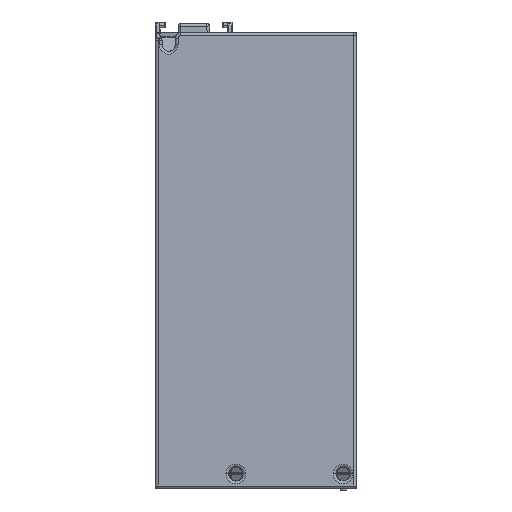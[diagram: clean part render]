
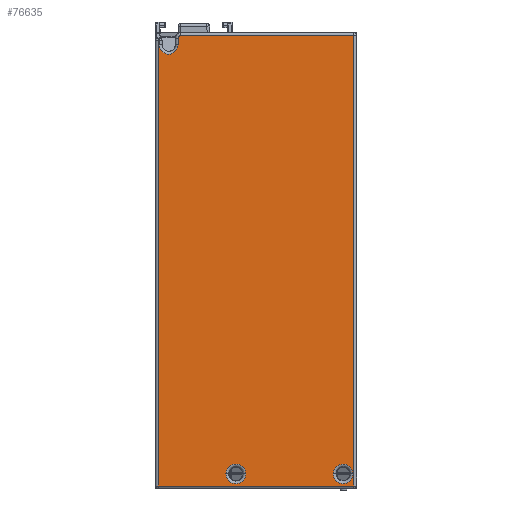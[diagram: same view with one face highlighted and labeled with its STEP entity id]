
A CAD part, front view. The second image highlights one B-rep face of the part: STEP entity #76635.
In plain terms, the highlighted planar face has unit normal (0, -1, 0).
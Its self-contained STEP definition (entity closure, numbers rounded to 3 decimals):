
#3292=DIRECTION('',(1.,0.,0.));
#3293=VECTOR('',#3292,73.017);
#3294=CARTESIAN_POINT('',(-36.509,0.,-84.009));
#3295=LINE('',#3294,#3293);
#3323=DIRECTION('',(0.,0.,-1.));
#3324=VECTOR('',#3323,166.017);
#3325=CARTESIAN_POINT('',(-36.509,0.,82.009));
#3326=LINE('',#3325,#3324);
#3353=DIRECTION('',(-1.,0.,0.));
#3354=VECTOR('',#3353,0.517);
#3355=CARTESIAN_POINT('',(-35.991,0.,82.009));
#3356=LINE('',#3355,#3354);
#3432=DIRECTION('',(-1.,0.,0.));
#3433=VECTOR('',#3432,64.517);
#3434=CARTESIAN_POINT('',(36.509,0.,
84.009));
#3435=LINE('',#3434,#3433);
#3525=CARTESIAN_POINT('',(-32.5,0.,80.5));
#3526=DIRECTION('',(0.,-1.,0.));
#3527=DIRECTION('',(-1.,0.,0.));
#3528=AXIS2_PLACEMENT_3D('',#3525,#3526,#3527);
#3530=CARTESIAN_POINT('',(-28.009,0.,
83.009));
#3531=DIRECTION('',(0.,1.,0.));
#3532=DIRECTION('',(-1.,0.,0.));
#3533=AXIS2_PLACEMENT_3D('',#3530,#3531,#3532);
#3535=CARTESIAN_POINT('',(-7.5,0.,-79.5));
#3536=DIRECTION('',(0.,-1.,0.));
#3537=DIRECTION('',(-1.,0.,0.));
#3538=AXIS2_PLACEMENT_3D('',#3535,#3536,#3537);
#3540=CARTESIAN_POINT('',(-7.5,0.,-79.5));
#3541=DIRECTION('',(0.,-1.,0.));
#3542=DIRECTION('',(1.,0.,0.));
#3543=AXIS2_PLACEMENT_3D('',#3540,#3541,#3542);
#3545=CARTESIAN_POINT('',(32.5,0.,-79.5));
#3546=DIRECTION('',(0.,-1.,0.));
#3547=DIRECTION('',(-1.,0.,0.));
#3548=AXIS2_PLACEMENT_3D('',#3545,#3546,#3547);
#3550=CARTESIAN_POINT('',(32.5,0.,-79.5));
#3551=DIRECTION('',(0.,-1.,0.));
#3552=DIRECTION('',(1.,0.,0.));
#3553=AXIS2_PLACEMENT_3D('',#3550,#3551,#3552);
#3559=DIRECTION('',(0.,0.,1.));
#3560=VECTOR('',#3559,1.509);
#3561=CARTESIAN_POINT('',(-35.991,0.,80.5));
#3562=LINE('',#3561,#3560);
#3587=DIRECTION('',(0.,0.,-1.));
#3588=VECTOR('',#3587,2.509);
#3589=CARTESIAN_POINT('',(-29.009,0.,
83.009));
#3590=LINE('',#3589,#3588);
#3595=DIRECTION('',(0.,0.,1.));
#3596=VECTOR('',#3595,168.017);
#3597=CARTESIAN_POINT('',(36.509,0.,-84.009));
#3598=LINE('',#3597,#3596);
#58146=CARTESIAN_POINT('',(-36.509,0.,-84.009));
#58147=VERTEX_POINT('',#58146);
#58148=CARTESIAN_POINT('',(36.509,0.,-84.009));
#58149=VERTEX_POINT('',#58148);
#58154=CARTESIAN_POINT('',(-36.509,0.,82.009));
#58155=VERTEX_POINT('',#58154);
#58160=CARTESIAN_POINT('',(-35.991,0.,82.009));
#58161=VERTEX_POINT('',#58160);
#58173=CARTESIAN_POINT('',(-28.009,0.,
84.009));
#58174=VERTEX_POINT('',#58173);
#58175=CARTESIAN_POINT('',(-29.009,0.,
83.009));
#58176=VERTEX_POINT('',#58175);
#58179=CARTESIAN_POINT('',(36.509,0.,
84.009));
#58180=VERTEX_POINT('',#58179);
#71418=CARTESIAN_POINT('',(-35.991,0.,80.5));
#71419=VERTEX_POINT('',#71418);
#71420=CARTESIAN_POINT('',(-29.009,0.,
80.5));
#71421=VERTEX_POINT('',#71420);
#71423=CARTESIAN_POINT('',(-11.166,0.,-79.5));
#71425=VERTEX_POINT('',#71423);
#71430=CARTESIAN_POINT('',(-3.834,0.,-79.5));
#71431=VERTEX_POINT('',#71430);
#71435=CARTESIAN_POINT('',(28.864,0.,-79.5));
#71437=VERTEX_POINT('',#71435);
#71442=CARTESIAN_POINT('',(36.136,0.,-79.5));
#71443=VERTEX_POINT('',#71442);
#76604=CARTESIAN_POINT('',(0.,0.,0.));
#76605=DIRECTION('',(0.,1.,0.));
#76606=DIRECTION('',(1.,0.,0.));
#76607=AXIS2_PLACEMENT_3D('',#76604,#76605,#76606);
#76608=PLANE('',#76607);
#76609=ORIENTED_EDGE('',*,*,#76311,.F.);
#76610=ORIENTED_EDGE('',*,*,#76365,.F.);
#76612=ORIENTED_EDGE('',*,*,#76611,.F.);
#76614=ORIENTED_EDGE('',*,*,#76613,.T.);
#76616=ORIENTED_EDGE('',*,*,#76615,.F.);
#76617=ORIENTED_EDGE('',*,*,#76475,.T.);
#76618=ORIENTED_EDGE('',*,*,#76491,.F.);
#76620=ORIENTED_EDGE('',*,*,#76619,.F.);
#76621=ORIENTED_EDGE('',*,*,#76256,.F.);
#76622=EDGE_LOOP('',(#76609,#76610,#76612,#76614,#76616,#76617,#76618,#76620,
#76621));
#76623=FACE_OUTER_BOUND('',#76622,.F.);
#76625=ORIENTED_EDGE('',*,*,#76624,.T.);
#76627=ORIENTED_EDGE('',*,*,#76626,.T.);
#76628=EDGE_LOOP('',(#76625,#76627));
#76629=FACE_BOUND('',#76628,.F.);
#76630=ORIENTED_EDGE('',*,*,#76593,.T.);
#76632=ORIENTED_EDGE('',*,*,#76631,.T.);
#76633=EDGE_LOOP('',(#76630,#76632));
#76634=FACE_BOUND('',#76633,.F.);
#3529=CIRCLE('',#3528,3.491);
#3534=CIRCLE('',#3533,1.);
#3539=CIRCLE('',#3538,3.666);
#3544=CIRCLE('',#3543,3.666);
#3549=CIRCLE('',#3548,3.636);
#3554=CIRCLE('',#3553,3.636);
#76256=EDGE_CURVE('',#58147,#58149,#3295,.T.);
#76311=EDGE_CURVE('',#58155,#58147,#3326,.T.);
#76365=EDGE_CURVE('',#58161,#58155,#3356,.T.);
#76475=EDGE_CURVE('',#58176,#58174,#3534,.T.);
#76491=EDGE_CURVE('',#58180,#58174,#3435,.T.);
#76593=EDGE_CURVE('',#71437,#71443,#3549,.T.);
#76611=EDGE_CURVE('',#71419,#58161,#3562,.T.);
#76613=EDGE_CURVE('',#71419,#71421,#3529,.T.);
#76615=EDGE_CURVE('',#58176,#71421,#3590,.T.);
#76619=EDGE_CURVE('',#58149,#58180,#3598,.T.);
#76624=EDGE_CURVE('',#71425,#71431,#3539,.T.);
#76626=EDGE_CURVE('',#71431,#71425,#3544,.T.);
#76631=EDGE_CURVE('',#71443,#71437,#3554,.T.);
#76635=ADVANCED_FACE('',(#76623,#76629,#76634),#76608,.F.);
